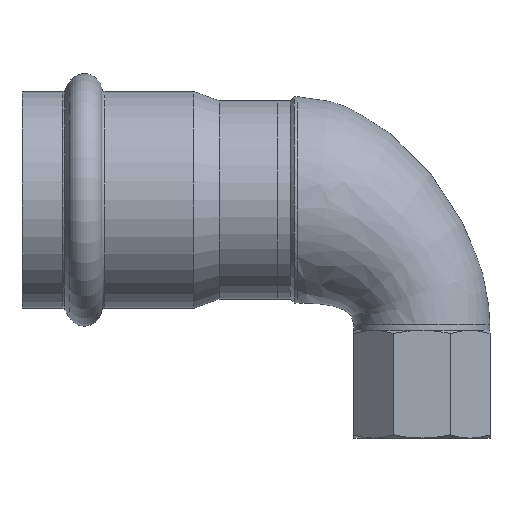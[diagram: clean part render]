
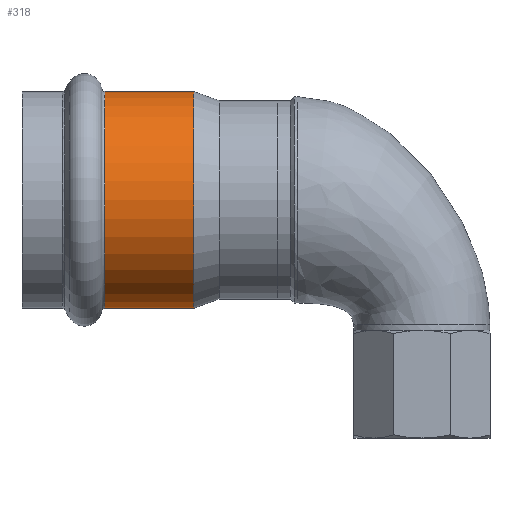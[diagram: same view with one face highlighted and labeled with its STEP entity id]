
A CAD part, top view. The second image highlights one B-rep face of the part: STEP entity #318.
In plain terms, the highlighted cylindrical face has radius 19.125 mm (diameter 38.25 mm), a full revolution.
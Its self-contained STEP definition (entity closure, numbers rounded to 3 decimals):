
#287=CARTESIAN_POINT('',(-29.431,42.425,0.));
#288=VERTEX_POINT('',#287);
#289=CARTESIAN_POINT('',(-29.431,23.3,0.0));
#290=DIRECTION('',(-1.0,0.0,0.0));
#291=DIRECTION('',(0.0,-1.0,0.0));
#292=AXIS2_PLACEMENT_3D('',#289,#290,#291);
#293=CIRCLE('',#292,19.125);
#294=EDGE_CURVE('',#288,#288,#293,.T.);
#299=CARTESIAN_POINT('',(-21.818,23.3,0.0));
#300=DIRECTION('',(1.0,0.0,0.0));
#301=DIRECTION('',(0.0,1.0,0.0));
#302=AXIS2_PLACEMENT_3D('',#299,#300,#301);
#303=CYLINDRICAL_SURFACE('',#302,19.125);
#304=CARTESIAN_POINT('',(-13.736,42.425,0.0));
#305=VERTEX_POINT('',#304);
#306=CARTESIAN_POINT('',(-13.736,23.3,0.0));
#307=DIRECTION('',(1.0,0.0,0.0));
#308=DIRECTION('',(0.0,1.0,0.0));
#309=AXIS2_PLACEMENT_3D('',#306,#307,#308);
#310=CIRCLE('',#309,19.125);
#311=EDGE_CURVE('',#305,#305,#310,.T.);
#312=ORIENTED_EDGE('',*,*,#311,.F.);
#313=EDGE_LOOP('',(#312));
#314=FACE_OUTER_BOUND('',#313,.T.);
#315=ORIENTED_EDGE('',*,*,#294,.F.);
#316=EDGE_LOOP('',(#315));
#317=FACE_BOUND('',#316,.T.);
#318=ADVANCED_FACE('',(#314,#317),#303,.T.);
